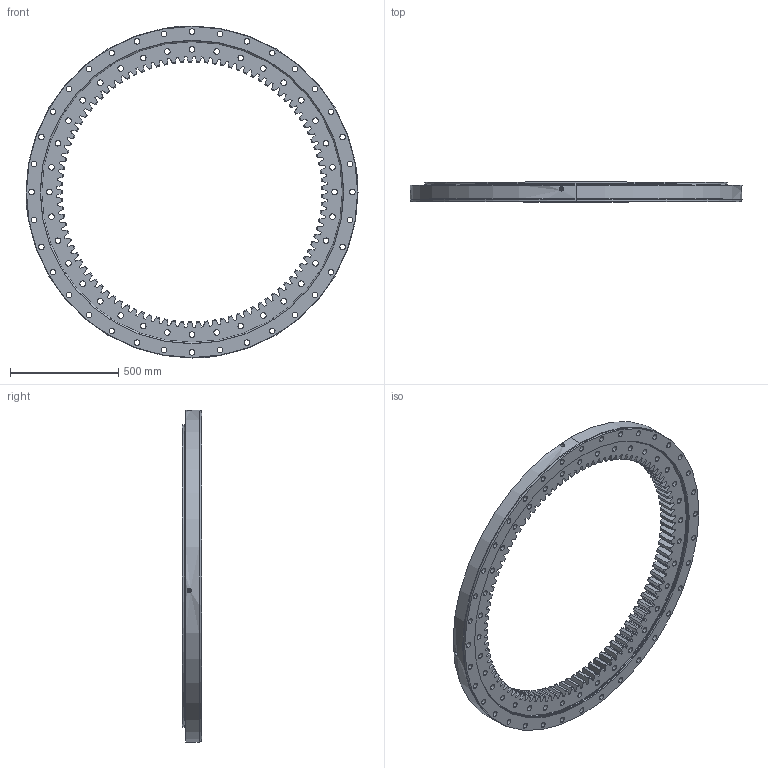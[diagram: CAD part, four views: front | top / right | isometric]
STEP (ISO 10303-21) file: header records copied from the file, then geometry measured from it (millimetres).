
FILE_DESCRIPTION (( 'STEP AP214' ), '1' );
FILE_NAME ('SM2130-1-1534AA.STEP', '2022-11-24T07:36:06', ( '' ), ( '' ), 'SwSTEP 2.0', 'SolidWorks 2020', '' );
FILE_SCHEMA (( 'AUTOMOTIVE_DESIGN' ));
Length unit declared in the file: millimetre
Products named in the file (1): SM2130-1-1534AA
Bounding box: 1534 x 90 x 1534 mm (x, y, z)
Volume: 47569977.2 mm3; surface area: 3713490.3 mm2
Topology: 4 solids, 4 shells, 925 faces, 2707 edges, 1802 vertices
Faces by surface type: plane 424, cylinder 289, cone 212
Entity records: 32142 total; most frequent: CARTESIAN_POINT 7667, ORIENTED_EDGE 5414, DIRECTION 4713, EDGE_CURVE 2707, VERTEX_POINT 1802, AXIS2_PLACEMENT_3D 1702, LINE 1309, VECTOR 1309
